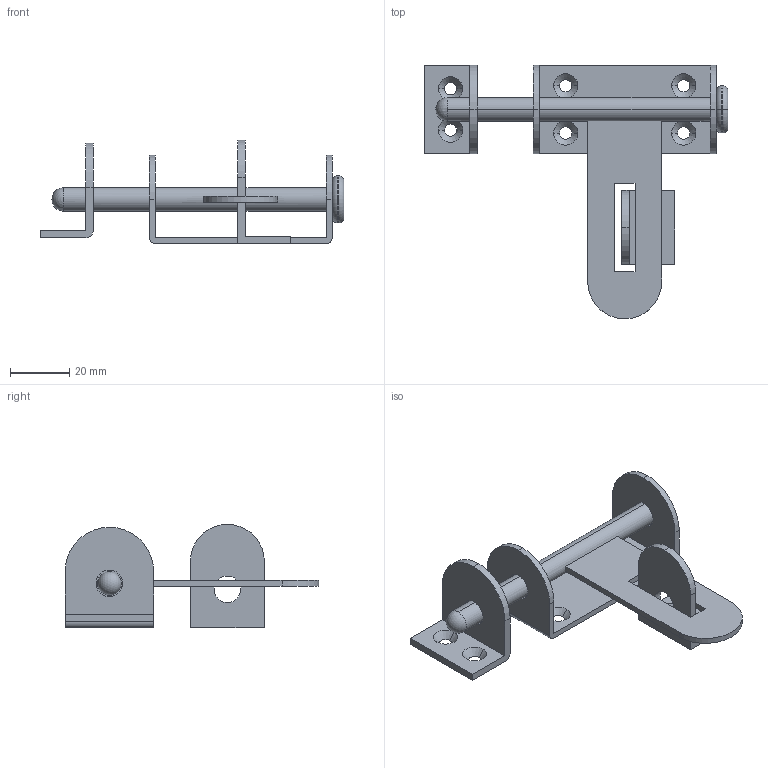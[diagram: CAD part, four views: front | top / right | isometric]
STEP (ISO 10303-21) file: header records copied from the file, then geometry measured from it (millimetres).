
FILE_DESCRIPTION (( 'STEP AP203' ), '1' );
FILE_NAME ('DL-138S.STEP', '2013-07-06T05:06:25', ( 'SDS' ), ( 'SDS' ), 'SwSTEP 2.0', 'SolidWorks 2002296', '' );
FILE_SCHEMA (( 'CONFIG_CONTROL_DESIGN' ));
Length unit declared in the file: millimetre
Products named in the file (5): DL-138S; DL-138S-1_蹬怮椔; DL-138S-2_蹬怮椔; DL-138S-3_蹬怮椔; DL-138S-4_蹬怮椔
Assembly tree (4 placements, depth 2):
  DL-138S
    DL-138S-3_蹬怮椔
    DL-138S-4_蹬怮椔
    DL-138S-1_蹬怮椔
    DL-138S-2_蹬怮椔
Bounding box: 103 x 86 x 35 mm (x, y, z)
Volume: 20021.1 mm3; surface area: 18636.7 mm2
Topology: 4 solids, 4 shells, 77 faces, 201 edges, 132 vertices
Faces by surface type: plane 32, cylinder 24, cone 16, torus 4, sphere 1
Entity records: 2944 total; most frequent: DIRECTION 455, CARTESIAN_POINT 411, ORIENTED_EDGE 394, EDGE_CURVE 197, AXIS2_PLACEMENT_3D 174, VERTEX_POINT 130, LINE 107, VECTOR 107
